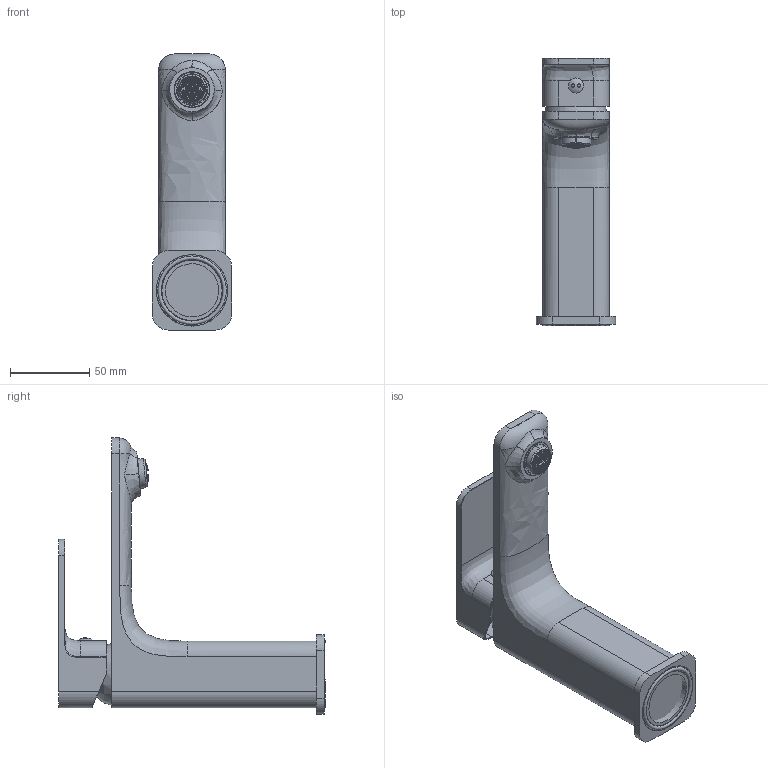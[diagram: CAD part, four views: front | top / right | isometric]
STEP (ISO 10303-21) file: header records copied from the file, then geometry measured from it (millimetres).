
FILE_DESCRIPTION(/* description */ (''),/* implementation_level */ '2;1');
FILE_NAME(/* name */ 'c:\worker\convert-fusion-apr-2019\tmp\job-1\20\output\files\c8f6c823-5177-47f8-9cd8-eeb94a3e7c62\461f4442-0178-469f-a0d5-b7db1e65e60b.stp',/* time_stamp */ '2019-05-20T06:57:06+00:00',/* author */ (''),/* organization */ (''),/* preprocessor_version */ 'ST-DEVELOPER v18',/* originating_system */ 'Autodesk Translation Framework v8.2.0.1029',/* authorisation */ '');
FILE_SCHEMA (('AUTOMOTIVE_DESIGN { 1 0 10303 214 3 1 1 }'));
Products named in the file (1): !AP2210
Bounding box: 50 x 168.3 x 174 mm (x, y, z)
Volume: 319258.5 mm3; surface area: 70322.5 mm2
Topology: 7 solids, 8 shells, 2229 faces, 7685 edges, 5263 vertices
Faces by surface type: cylinder 1123, plane 1008, bspline 62, cone 22, torus 8, sphere 6
Full cylindrical faces by diameter (mm): 0.5 x130, 0.631 x2, 0.95 x1, 1.047 x1, 2 x2, 4 x2, 4.1 x1, 4.2 x1, 6.7 x1, 6.8 x1, 7 x1, 9.5 x1, 14.4 x1, 21 x2, 21.6 x1, 22 x1, 23.8 x1, 28 x1, 30.8 x4, 33.5 x1, 35.5 x1, 38 x2, 45 x2
Entity records: 134811 total; most frequent: CARTESIAN_POINT 69313, ORIENTED_EDGE 15366, DIRECTION 10960, EDGE_CURVE 7683, VERTEX_POINT 5263, AXIS2_PLACEMENT_3D 3767, EDGE_LOOP 3434, LINE 3426
